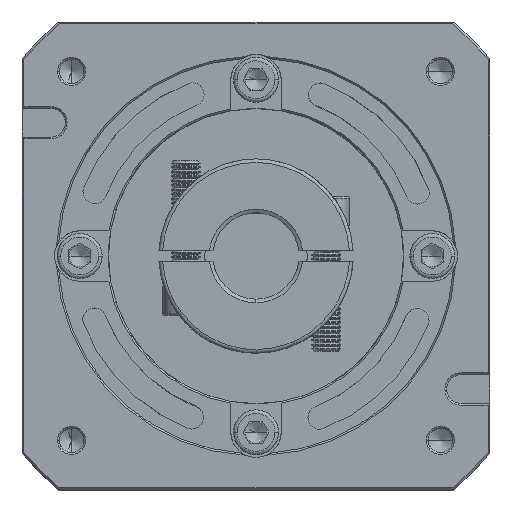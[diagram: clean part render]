
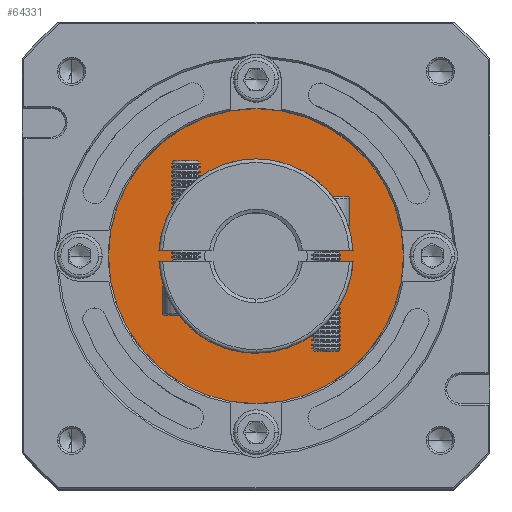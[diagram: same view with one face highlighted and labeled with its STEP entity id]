
A CAD part, top view. The second image highlights one B-rep face of the part: STEP entity #64331.
In plain terms, the highlighted planar face has unit normal (0, 0, 1).
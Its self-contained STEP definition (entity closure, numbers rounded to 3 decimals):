
#2257 = CARTESIAN_POINT ( 'NONE',  ( -181.022, 69.349, 2.45 ) ) ;
#6363 = CARTESIAN_POINT ( 'NONE',  ( -160.022, 69.349, 2.45 ) ) ;
#15291 = VERTEX_POINT ( 'NONE', #6363 ) ;
#16544 = DIRECTION ( 'NONE',  ( 1., 0., 0. ) ) ;
#18283 = PLANE ( 'NONE',  #86124 ) ;
#19946 = DIRECTION ( 'NONE',  ( 0., 0., -1. ) ) ;
#20820 = DIRECTION ( 'NONE',  ( 1., 0., 0. ) ) ;
#26881 = CARTESIAN_POINT ( 'NONE',  ( -140.022, 69.349, 2.45 ) ) ;
#32477 = CIRCLE ( 'NONE', #53082, 41. ) ;
#37196 = CIRCLE ( 'NONE', #70066, 41. ) ;
#38479 = CARTESIAN_POINT ( 'NONE',  ( -120.022, 69.349, 2.45 ) ) ;
#40058 = VERTEX_POINT ( 'NONE', #56677 ) ;
#45231 = EDGE_LOOP ( 'NONE', ( #113659, #45809 ) ) ;
#45809 = ORIENTED_EDGE ( 'NONE', *, *, #70534, .T. ) ;
#46478 = DIRECTION ( 'NONE',  ( 1., 0., 0. ) ) ;
#53082 = AXIS2_PLACEMENT_3D ( 'NONE', #68581, #69411, #89741 ) ;
#56677 = CARTESIAN_POINT ( 'NONE',  ( -99.022, 69.349, 2.45 ) ) ;
#64331 = ADVANCED_FACE ( 'NONE', ( #105998, #118634 ), #18283, .T. ) ;
#66411 = CARTESIAN_POINT ( 'NONE',  ( -140.022, 69.349, 2.45 ) ) ;
#68581 = CARTESIAN_POINT ( 'NONE',  ( -140.022, 69.349, 2.45 ) ) ;
#69411 = DIRECTION ( 'NONE',  ( 0., 0., 1. ) ) ;
#70066 = AXIS2_PLACEMENT_3D ( 'NONE', #66411, #86719, #84964 ) ;
#70534 = EDGE_CURVE ( 'NONE', #91200, #40058, #37196, .T. ) ;
#71317 = CARTESIAN_POINT ( 'NONE',  ( -140.022, 69.349, 2.45 ) ) ;
#76424 = CIRCLE ( 'NONE', #82622, 20. ) ;
#82622 = AXIS2_PLACEMENT_3D ( 'NONE', #71317, #19946, #20820 ) ;
#84597 = CIRCLE ( 'NONE', #103577, 20. ) ;
#84952 = VERTEX_POINT ( 'NONE', #38479 ) ;
#84964 = DIRECTION ( 'NONE',  ( 1., 0., 0. ) ) ;
#86124 = AXIS2_PLACEMENT_3D ( 'NONE', #129236, #109452, #16544 ) ;
#86719 = DIRECTION ( 'NONE',  ( 0., 0., 1. ) ) ;
#89741 = DIRECTION ( 'NONE',  ( 1., 0., 0. ) ) ;
#90462 = EDGE_CURVE ( 'NONE', #15291, #84952, #84597, .T. ) ;
#91200 = VERTEX_POINT ( 'NONE', #2257 ) ;
#93176 = EDGE_LOOP ( 'NONE', ( #96289, #117394 ) ) ;
#96289 = ORIENTED_EDGE ( 'NONE', *, *, #101784, .T. ) ;
#101784 = EDGE_CURVE ( 'NONE', #84952, #15291, #76424, .T. ) ;
#103577 = AXIS2_PLACEMENT_3D ( 'NONE', #26881, #106157, #46478 ) ;
#105998 = FACE_OUTER_BOUND ( 'NONE', #45231, .T. ) ;
#106157 = DIRECTION ( 'NONE',  ( 0., 0., -1. ) ) ;
#109452 = DIRECTION ( 'NONE',  ( 0., 0., 1. ) ) ;
#113659 = ORIENTED_EDGE ( 'NONE', *, *, #120901, .T. ) ;
#117394 = ORIENTED_EDGE ( 'NONE', *, *, #90462, .T. ) ;
#118634 = FACE_BOUND ( 'NONE', #93176, .T. ) ;
#120901 = EDGE_CURVE ( 'NONE', #40058, #91200, #32477, .T. ) ;
#129236 = CARTESIAN_POINT ( 'NONE',  ( -140.022, 69.349, 2.45 ) ) ;
